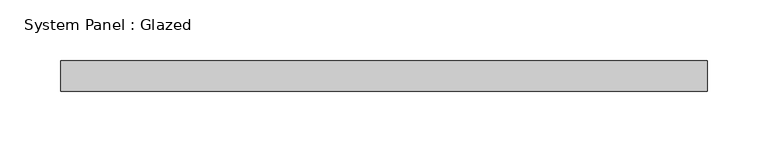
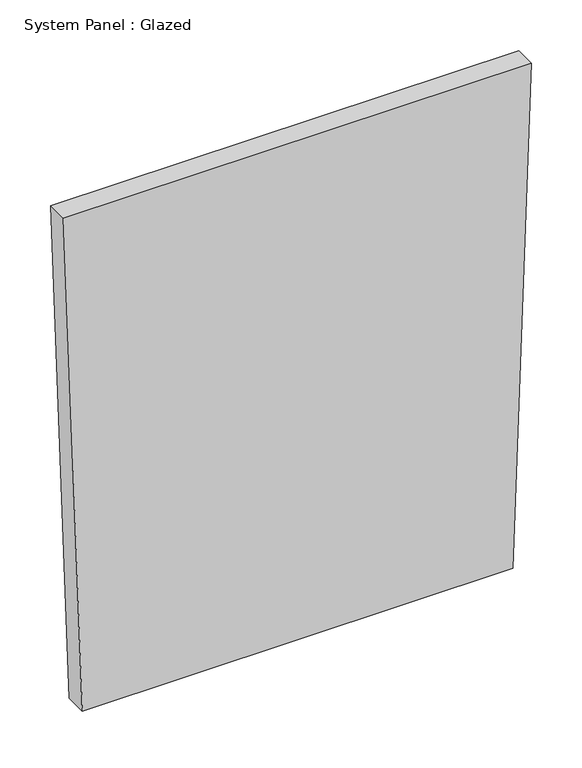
"""IFC4 building model written with IfcOpenShell, lengths in millimetres: plate geometry, System Panel : Glazed."""

from ifc_helpers import new_model, si_unit, frame, origin, place, context, project, spatial, polyline, outline, extrude, source, transform, mapped, element, save


def system_panel_glazed_180d510e(model_context):
    return source(origin(), model_context, "Body", "SweptSolid", [
        extrude(outline(polyline([(0.0, -244.9437717), (0.0, 244.9437717), (599.6222482, 266.2313143), (599.6222482, -266.2313143), (0.0, -244.9437717)])), frame((0.0, 24.5, 0.0), z_axis=(0.0, 1.0, 0.0), x_axis=(0.0, 0.0, 1.0)), (0.0, 0.0, 1.0), 25.0),
    ])


if __name__ == "__main__":
    model = new_model("IFC4")
    model_context = context("Model", 3, world=origin())
    ifc_project = project(units=[si_unit("LENGTHUNIT", "METRE", prefix="MILLI")], contexts=[model_context])
    site = spatial("IfcSite", under=ifc_project)
    building = spatial("IfcBuilding", under=site)
    placement = place(None, origin())
    system_panel_glazed_shape = system_panel_glazed_180d510e(model_context)
    element("IfcPlate", 1, ObjectType="System Panel : Glazed", at=placement, inside=building, context=model_context, shape_type="MappedRepresentation", body=[
        mapped(system_panel_glazed_shape, transform((0.0, 0.0, 0.0), x_axis=(1.0, 0.0, 0.0), y_axis=(0.0, 1.0, 0.0), z_axis=(0.0, 0.0, 1.0))),
    ])
    save(model, "model.ifc")
